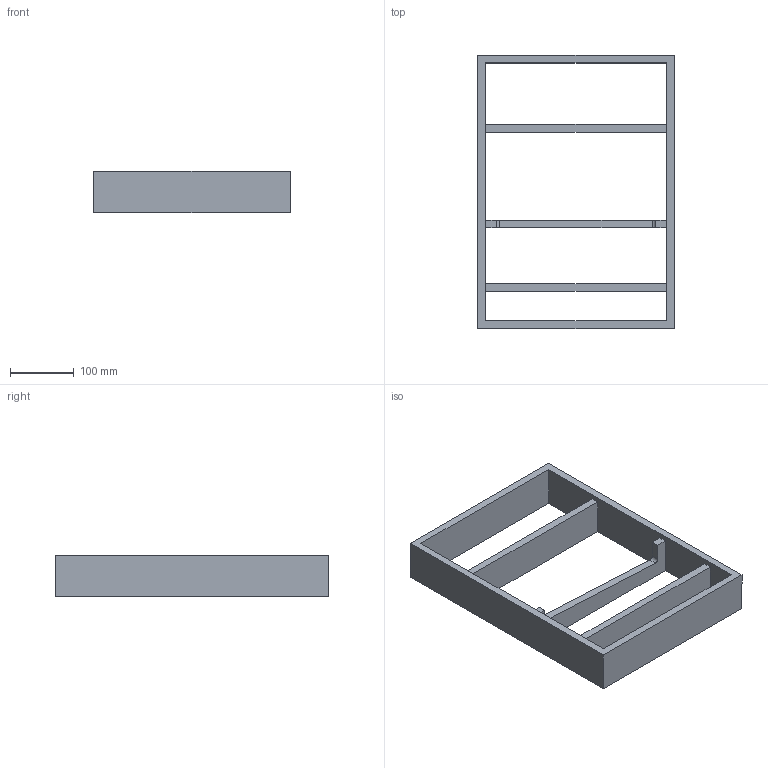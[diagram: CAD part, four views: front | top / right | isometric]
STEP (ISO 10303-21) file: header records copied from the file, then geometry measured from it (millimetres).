
FILE_DESCRIPTION (( 'STEP AP214' ), '1' );
FILE_NAME ('Vario Messer_Modul_H65_NL450_B400_16mm_Alu_Buche.step', '2010-10-07T06:11:43', ( 'grass' ), ( '' ), 'SwSTEP 2.0', 'SolidWorks 2010', '' );
FILE_SCHEMA (( 'AUTOMOTIVE_DESIGN' ));
Length unit declared in the file: millimetre
Products named in the file (1): Vario Messer_Modul_H65_NL450_B400_16mm_Alu_Buche
Bounding box: 308 x 429 x 65 mm (x, y, z)
Volume: 1617177.5 mm3; surface area: 320673.2 mm2
Topology: 1 solids, 1 shells, 25 faces, 78 edges, 52 vertices
Faces by surface type: plane 23, cylinder 2
Entity records: 906 total; most frequent: ORIENTED_EDGE 156, CARTESIAN_POINT 156, DIRECTION 134, EDGE_CURVE 78, LINE 74, VECTOR 74, VERTEX_POINT 52, EDGE_LOOP 30
